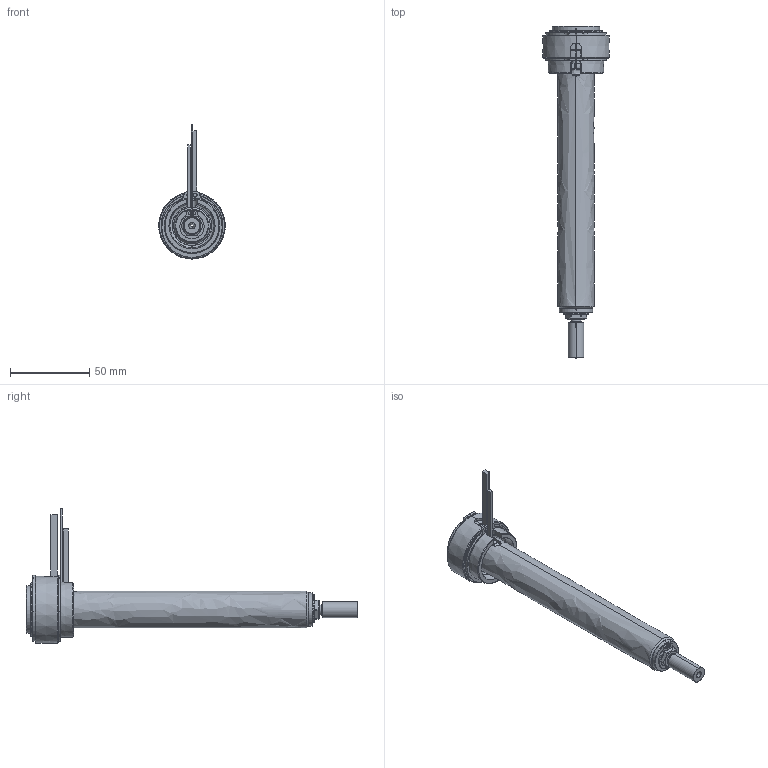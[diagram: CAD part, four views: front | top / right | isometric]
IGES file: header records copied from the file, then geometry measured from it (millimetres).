
Start section: SolidWorks IGES file using analytic representation for surfaces
Global section: file name: C:\Users\luca.EMPAD\Desktop\TEM\UGBE3504-M-A-P-3 [Ød-1.5 P-20 ØC-6.0].IGS; native system: SolidWorks 2012; preprocessor: SolidWorks 2012; author: luca; date: 120330.135724; units: millimetre
Bounding box: 42 x 209 x 84.4 mm (x, y, z)
Surface area: 35384.3 mm2 (no closed solid volume)
Topology: 0 solids, 0 shells, 181 faces, 3230 edges, 3230 vertices
Faces by surface type: revolution 114, bspline 67
